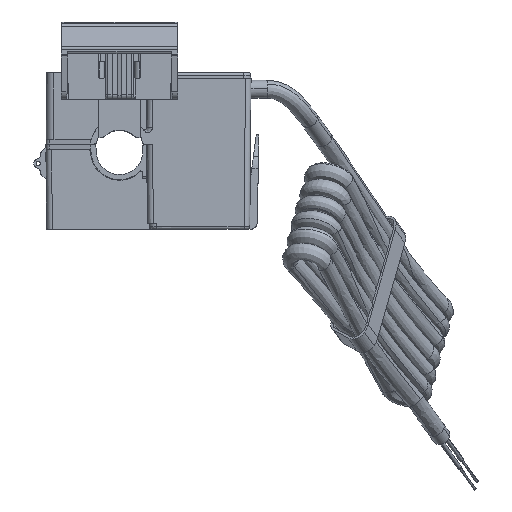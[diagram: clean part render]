
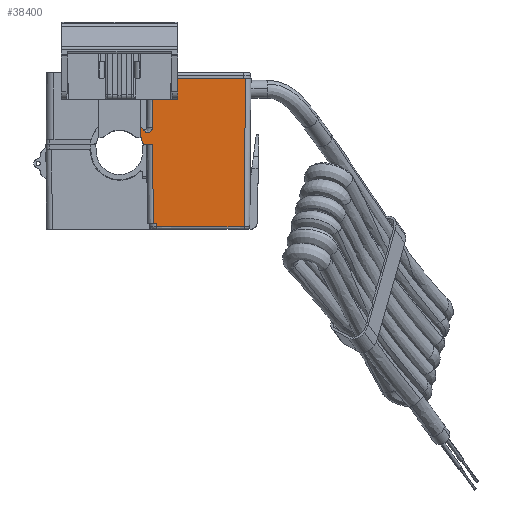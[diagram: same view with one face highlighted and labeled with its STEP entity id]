
A CAD part, top view. The second image highlights one B-rep face of the part: STEP entity #38400.
In plain terms, the highlighted planar face has unit normal (0, -0.009, 1).
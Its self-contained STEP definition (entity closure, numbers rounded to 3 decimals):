
#17300=CARTESIAN_POINT('',(11.008,4.463,
22.479));
#17310=VERTEX_POINT('',#17300);
#17340=CARTESIAN_POINT('',(8.912,4.183,
22.477));
#17350=CARTESIAN_POINT('',(9.476,3.451,
22.471));
#17360=CARTESIAN_POINT('',(10.007,3.176,
22.468));
#17370=CARTESIAN_POINT('',(10.464,3.248,
22.469));
#17380=CARTESIAN_POINT('',(10.81,3.56,
22.472));
#17390=CARTESIAN_POINT('',(11.004,4.001,
22.475));
#17400=CARTESIAN_POINT('',(11.008,4.463,
22.479));
#17410=B_SPLINE_CURVE_WITH_KNOTS('',6,(#17340,#17350,#17360,#17370,
#17380,#17390,#17400),.UNSPECIFIED.,.F.,.F.,(7,7),(0.,1.),.UNSPECIFIED.)
;
#17420=CARTESIAN_POINT('',(8.912,4.183,
22.477));
#17430=VERTEX_POINT('',#17420);
#17440=EDGE_CURVE('',#17430,#17310,#17410,.T.);
#25540=CARTESIAN_POINT('',(7.,5.299,
22.487));
#25550=VERTEX_POINT('',#25540);
#25580=CARTESIAN_POINT('',(6.5,5.299,
22.487));
#25590=DIRECTION('',(0.,0.009,-1.));
#25600=DIRECTION('',(0.,-1.,-0.009));
#25610=AXIS2_PLACEMENT_3D('',#25580,#25590,#25600);
#25620=ELLIPSE('',#25610,0.5,0.5);
#25630=CARTESIAN_POINT('',(6.273,4.854,
22.483));
#25640=VERTEX_POINT('',#25630);
#25650=EDGE_CURVE('',#25550,#25640,#25620,.T.);
#26210=CARTESIAN_POINT('',(11.236,-16.1,22.3));
#26220=VERTEX_POINT('',#26210);
#26250=CARTESIAN_POINT('',(19.15,-16.1,22.3));
#26260=DIRECTION('',(-1.,0.,0.));
#26270=VECTOR('',#26260,1.);
#26280=LINE('',#26250,#26270);
#26290=CARTESIAN_POINT('',(11.9,-16.1,22.3));
#26300=VERTEX_POINT('',#26290);
#26310=EDGE_CURVE('',#26300,#26220,#26280,.T.);
#37130=CARTESIAN_POINT('',(11.1,15.,22.571));
#37140=VERTEX_POINT('',#37130);
#37170=CARTESIAN_POINT('',(10.909,-6.91,
22.38));
#37180=DIRECTION('',(0.009,1.,
0.009));
#37190=VECTOR('',#37180,1.);
#37200=LINE('',#37170,#37190);
#37210=EDGE_CURVE('',#17310,#37140,#37200,.T.);
#37260=CARTESIAN_POINT('',(19.15,-16.1,22.3));
#37270=DIRECTION('',(0.,0.009,-1.));
#37280=DIRECTION('',(0.,-1.,-0.009));
#37290=AXIS2_PLACEMENT_3D('',#37260,#37270,#37280);
#37300=PLANE('',#37290);
#37310=CARTESIAN_POINT('',(19.15,15.,22.571));
#37320=DIRECTION('',(-1.,0.,0.));
#37330=VECTOR('',#37320,1.);
#37340=LINE('',#37310,#37330);
#37350=CARTESIAN_POINT('',(30.971,15.,22.571));
#37360=VERTEX_POINT('',#37350);
#37370=CARTESIAN_POINT('',(28.968,15.,22.571));
#37380=VERTEX_POINT('',#37370);
#37390=EDGE_CURVE('',#37360,#37380,#37340,.T.);
#37400=ORIENTED_EDGE('',*,*,#37390,.T.);
#37410=CARTESIAN_POINT('',(30.78,-6.91,
22.38));
#37420=DIRECTION('',(-0.009,-1.,
-0.009));
#37430=VECTOR('',#37420,1.);
#37440=LINE('',#37410,#37430);
#37450=CARTESIAN_POINT('',(30.694,-16.804,
22.294));
#37460=VERTEX_POINT('',#37450);
#37470=EDGE_CURVE('',#37360,#37460,#37440,.T.);
#37480=ORIENTED_EDGE('',*,*,#37470,.F.);
#37490=CARTESIAN_POINT('',(6.21,-16.804,
22.294));
#37500=DIRECTION('',(1.,0.,0.));
#37510=VECTOR('',#37500,1.);
#37520=LINE('',#37490,#37510);
#37530=CARTESIAN_POINT('',(11.9,-16.804,22.294));
#37540=VERTEX_POINT('',#37530);
#37550=EDGE_CURVE('',#37540,#37460,#37520,.T.);
#37560=ORIENTED_EDGE('',*,*,#37550,.T.);
#37570=CARTESIAN_POINT('',(11.9,-11.113,22.344));
#37580=DIRECTION('',(0.,1.,
0.009));
#37590=VECTOR('',#37580,1.);
#37600=LINE('',#37570,#37590);
#37610=EDGE_CURVE('',#37540,#26300,#37600,.T.);
#37620=ORIENTED_EDGE('',*,*,#37610,.F.);
#37630=ORIENTED_EDGE('',*,*,#26310,.F.);
#37640=CARTESIAN_POINT('',(11.156,-6.91,
22.38));
#37650=DIRECTION('',(-0.009,1.,
0.009));
#37660=VECTOR('',#37650,1.);
#37670=LINE('',#37640,#37660);
#37680=CARTESIAN_POINT('',(11.087,0.95,
22.449));
#37690=VERTEX_POINT('',#37680);
#37700=EDGE_CURVE('',#26220,#37690,#37670,.T.);
#37710=ORIENTED_EDGE('',*,*,#37700,.F.);
#37720=CARTESIAN_POINT('',(19.15,0.95,22.449));
#37730=DIRECTION('',(-1.,0.,0.));
#37740=VECTOR('',#37730,1.);
#37750=LINE('',#37720,#37740);
#37760=CARTESIAN_POINT('',(9.399,0.95,
22.449));
#37770=VERTEX_POINT('',#37760);
#37780=EDGE_CURVE('',#37690,#37770,#37750,.T.);
#37790=ORIENTED_EDGE('',*,*,#37780,.F.);
#37800=CARTESIAN_POINT('',(9.399,1.45,
22.453));
#37810=DIRECTION('',(0.,0.009,-1.));
#37820=DIRECTION('',(0.,-1.,-0.009));
#37830=AXIS2_PLACEMENT_3D('',#37800,#37810,#37820);
#37840=ELLIPSE('',#37830,0.5,0.5);
#37850=CARTESIAN_POINT('',(8.908,1.355,
22.452));
#37860=VERTEX_POINT('',#37850);
#37870=EDGE_CURVE('',#37770,#37860,#37840,.T.);
#37880=ORIENTED_EDGE('',*,*,#37870,.F.);
#37890=CARTESIAN_POINT('',(4.,0.4,
22.444));
#37900=DIRECTION('',(0.,0.009,-1.));
#37910=DIRECTION('',(0.,-1.,-0.009));
#37920=AXIS2_PLACEMENT_3D('',#37890,#37900,#37910);
#37930=ELLIPSE('',#37920,5.,5.);
#37940=EDGE_CURVE('',#25640,#37860,#37930,.T.);
#37950=ORIENTED_EDGE('',*,*,#37940,.T.);
#37960=ORIENTED_EDGE('',*,*,#25650,.T.);
#37970=CARTESIAN_POINT('',(7.,-6.9,
22.38));
#37980=DIRECTION('',(0.,1.,0.009));
#37990=VECTOR('',#37980,1.);
#38000=LINE('',#37970,#37990);
#38010=CARTESIAN_POINT('',(7.,5.826,
22.491));
#38020=VERTEX_POINT('',#38010);
#38030=EDGE_CURVE('',#25550,#38020,#38000,.T.);
#38040=ORIENTED_EDGE('',*,*,#38030,.F.);
#38050=CARTESIAN_POINT('',(4.,0.4,
22.444));
#38060=DIRECTION('',(0.,0.009,-1.));
#38070=DIRECTION('',(0.,-1.,-0.009));
#38080=AXIS2_PLACEMENT_3D('',#38050,#38060,#38070);
#38090=ELLIPSE('',#38080,6.2,6.2);
#38100=EDGE_CURVE('',#38020,#17430,#38090,.T.);
#38110=ORIENTED_EDGE('',*,*,#38100,.F.);
#38120=ORIENTED_EDGE('',*,*,#17440,.F.);
#38130=ORIENTED_EDGE('',*,*,#37210,.F.);
#38140=CARTESIAN_POINT('',(12.968,15.,22.571));
#38150=VERTEX_POINT('',#38140);
#38160=EDGE_CURVE('',#38150,#37140,#37340,.T.);
#38170=ORIENTED_EDGE('',*,*,#38160,.T.);
#38180=CARTESIAN_POINT('',(12.968,-6.9,
22.38));
#38190=DIRECTION('',(0.,1.,0.009));
#38200=VECTOR('',#38190,1.);
#38210=LINE('',#38180,#38200);
#38220=CARTESIAN_POINT('',(12.968,-16.1,22.3));
#38230=VERTEX_POINT('',#38220);
#38240=EDGE_CURVE('',#38230,#38150,#38210,.T.);
#38250=ORIENTED_EDGE('',*,*,#38240,.T.);
#38260=ORIENTED_EDGE('',*,*,#38240,.F.);
#38270=EDGE_CURVE('',#37380,#38150,#37340,.T.);
#38280=ORIENTED_EDGE('',*,*,#38270,.T.);
#38290=CARTESIAN_POINT('',(28.968,-6.9,
22.38));
#38300=DIRECTION('',(0.,1.,0.009));
#38310=VECTOR('',#38300,1.);
#38320=LINE('',#38290,#38310);
#38330=CARTESIAN_POINT('',(28.968,-16.1,22.3));
#38340=VERTEX_POINT('',#38330);
#38350=EDGE_CURVE('',#38340,#37380,#38320,.T.);
#38360=ORIENTED_EDGE('',*,*,#38350,.T.);
#38370=ORIENTED_EDGE('',*,*,#38350,.F.);
#38380=EDGE_LOOP('',(#38370,#38360,#38280,#38260,#38250,#38170,#38130,
#38120,#38110,#38040,#37960,#37950,#37880,#37790,#37710,#37630,#37620,
#37560,#37480,#37400));
#38390=FACE_OUTER_BOUND('',#38380,.T.);
#38400=ADVANCED_FACE('',(#38390),#37300,.F.);
